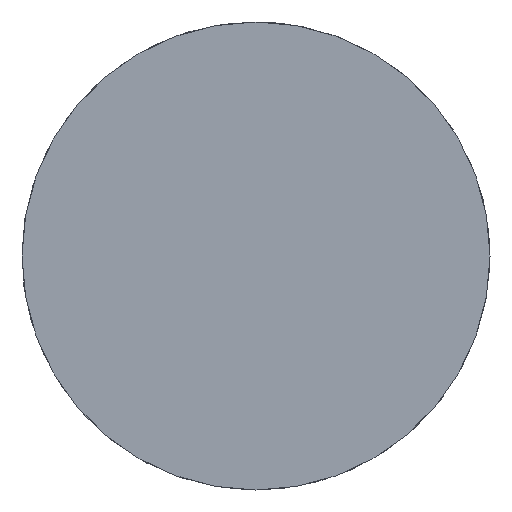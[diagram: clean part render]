
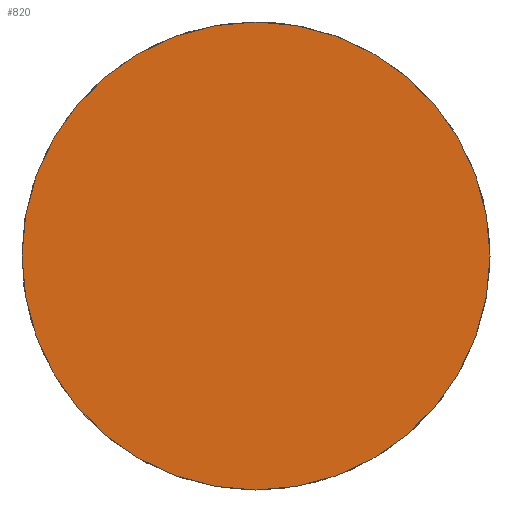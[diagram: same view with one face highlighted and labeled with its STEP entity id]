
A CAD part, left-side view. The second image highlights one B-rep face of the part: STEP entity #820.
In plain terms, the highlighted planar face has unit normal (-1, 0, 0).
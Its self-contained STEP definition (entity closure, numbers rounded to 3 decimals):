
#773=CARTESIAN_POINT('',(-691.681,-604.626,-19.626));
#774=VERTEX_POINT('',#773);
#781=CARTESIAN_POINT('',(-691.681,-521.626,-19.626));
#782=VERTEX_POINT('',#781);
#783=CARTESIAN_POINT('',(-691.681,-563.126,-19.626));
#784=DIRECTION('',(-1.0,0.0,0.0));
#785=DIRECTION('',(0.0,-1.0,0.0));
#786=AXIS2_PLACEMENT_3D('',#783,#784,#785);
#787=CIRCLE('',#786,41.5);
#788=EDGE_CURVE('',#782,#774,#787,.T.);
#790=CARTESIAN_POINT('',(-691.681,-563.126,-19.626));
#791=DIRECTION('',(-1.0,0.0,0.0));
#792=DIRECTION('',(0.0,-1.0,0.0));
#793=AXIS2_PLACEMENT_3D('',#790,#791,#792);
#794=CIRCLE('',#793,41.5);
#795=EDGE_CURVE('',#774,#782,#794,.T.);
#811=CARTESIAN_POINT('',(-691.681,-513.326,-69.426));
#812=DIRECTION('',(-1.0,0.0,0.0));
#813=DIRECTION('',(0.0,-1.0,0.0));
#814=AXIS2_PLACEMENT_3D('',#811,#812,#813);
#815=PLANE('',#814);
#816=ORIENTED_EDGE('',*,*,#795,.T.);
#817=ORIENTED_EDGE('',*,*,#788,.T.);
#818=EDGE_LOOP('',(#816,#817));
#819=FACE_OUTER_BOUND('',#818,.T.);
#820=ADVANCED_FACE('',(#819),#815,.T.);
